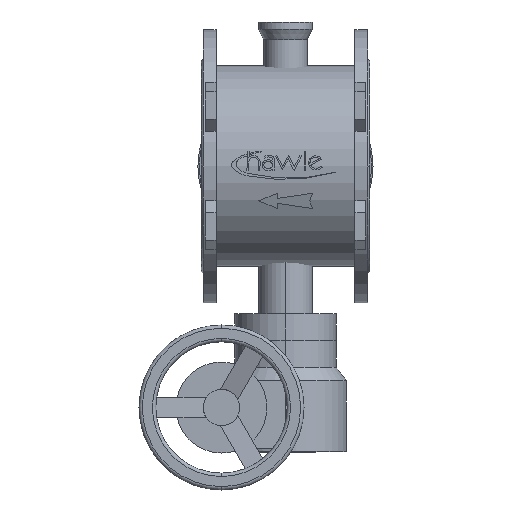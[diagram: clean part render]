
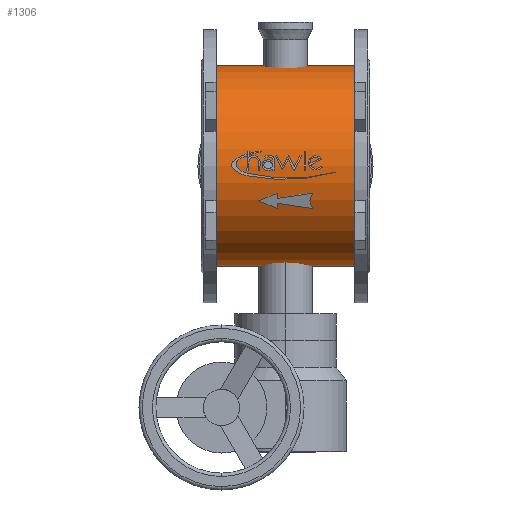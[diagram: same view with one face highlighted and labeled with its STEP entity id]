
A CAD part, top view. The second image highlights one B-rep face of the part: STEP entity #1306.
In plain terms, the highlighted cylindrical face has radius 149 mm (diameter 298 mm), a partial arc.
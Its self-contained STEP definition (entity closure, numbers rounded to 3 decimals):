
#1306=ADVANCED_FACE('',(#2582),#2583,.T.);
#2582=FACE_OUTER_BOUND('',#4165,.T.);
#2583=CYLINDRICAL_SURFACE('',#4166,149.0);
#4165=EDGE_LOOP('',(#6549,#6550,#6551,#6552));
#4166=AXIS2_PLACEMENT_3D('',#6553,#6554,#6555);
#6549=ORIENTED_EDGE('',*,*,#8821,.T.);
#6550=ORIENTED_EDGE('',*,*,#9143,.T.);
#6551=ORIENTED_EDGE('',*,*,#8823,.T.);
#6552=ORIENTED_EDGE('',*,*,#9144,.T.);
#6553=CARTESIAN_POINT('',(-228.0,0.,0.0));
#6554=DIRECTION('',(1.0,0.,0.0));
#6555=DIRECTION('',(0.,-1.0,0.0));
#8821=EDGE_CURVE('',#10540,#10541,#10542,.T.);
#8823=EDGE_CURVE('',#10545,#10543,#10546,.T.);
#9143=EDGE_CURVE('',#10541,#10545,#11006,.T.);
#9144=EDGE_CURVE('',#10543,#10540,#11007,.T.);
#10540=VERTEX_POINT('',#12847);
#10541=VERTEX_POINT('',#12848);
#10542=LINE('',#12849,#12850);
#10543=VERTEX_POINT('',#12851);
#10545=VERTEX_POINT('',#12853);
#10546=LINE('',#12854,#12855);
#11006=CIRCLE('',#13437,149.0);
#11007=CIRCLE('',#13438,149.0);
#12847=CARTESIAN_POINT('',(-228.0,-149.0,0.0));
#12848=CARTESIAN_POINT('',(-22.0,-149.0,0.0));
#12849=CARTESIAN_POINT('',(-228.0,-149.0,0.));
#12850=VECTOR('',#14904,1.0);
#12851=CARTESIAN_POINT('',(-228.0,149.0,0.));
#12853=CARTESIAN_POINT('',(-22.0,149.0,0.));
#12854=CARTESIAN_POINT('',(-228.0,149.0,0.));
#12855=VECTOR('',#14908,1.0);
#13437=AXIS2_PLACEMENT_3D('',#15361,#15362,#15363);
#13438=AXIS2_PLACEMENT_3D('',#15364,#15365,#15366);
#14904=DIRECTION('',(1.0,0.,0.0));
#14908=DIRECTION('',(-1.0,0.,-0.0));
#15361=CARTESIAN_POINT('',(-22.0,0.,0.0));
#15362=DIRECTION('',(-1.0,0.,0.0));
#15363=DIRECTION('',(0.,-1.0,0.0));
#15364=CARTESIAN_POINT('',(-228.0,0.,0.0));
#15365=DIRECTION('',(1.0,0.,0.0));
#15366=DIRECTION('',(0.,-1.0,0.0));
